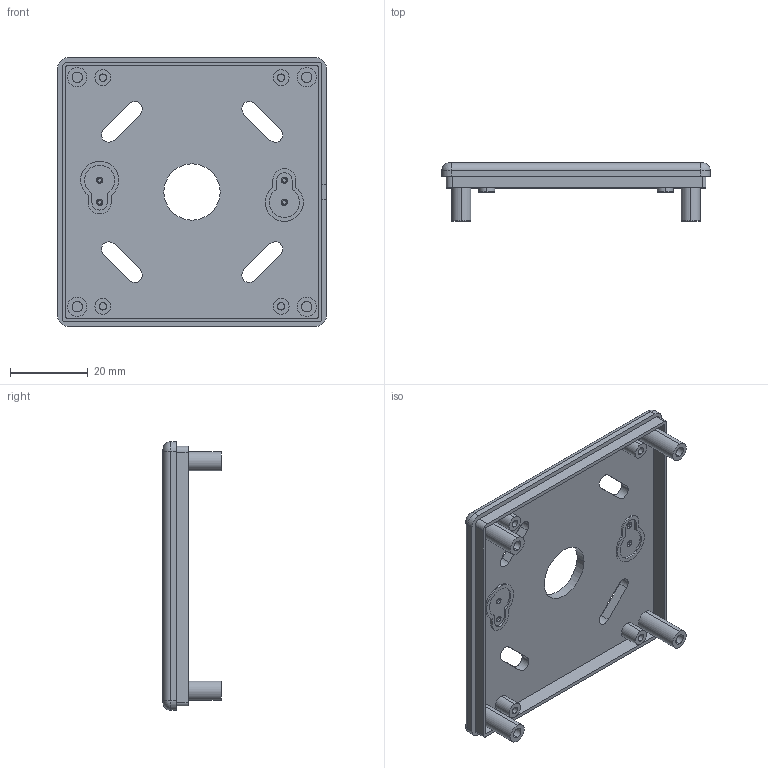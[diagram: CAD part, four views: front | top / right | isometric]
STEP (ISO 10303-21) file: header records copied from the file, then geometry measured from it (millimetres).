
FILE_DESCRIPTION (( 'STEP AP214' ), '1' );
FILE_NAME ('Tapa PP117.STEP', '2018-06-07T06:31:42', ( 'aaa' ), ( '' ), 'SwSTEP 2.0', 'SolidWorks 2013', '' );
FILE_SCHEMA (( 'AUTOMOTIVE_DESIGN' ));
Length unit declared in the file: millimetre
Products named in the file (1): Tapa PP117
Bounding box: 69.25 x 15 x 69.25 mm (x, y, z)
Volume: 13096.1 mm3; surface area: 13511.6 mm2
Topology: 1 solids, 1 shells, 149 faces, 358 edges, 236 vertices
Faces by surface type: cylinder 78, plane 59, torus 12
Entity records: 4466 total; most frequent: DIRECTION 842, CARTESIAN_POINT 744, ORIENTED_EDGE 716, EDGE_CURVE 358, AXIS2_PLACEMENT_3D 334, VERTEX_POINT 236, EDGE_LOOP 184, CIRCLE 184
